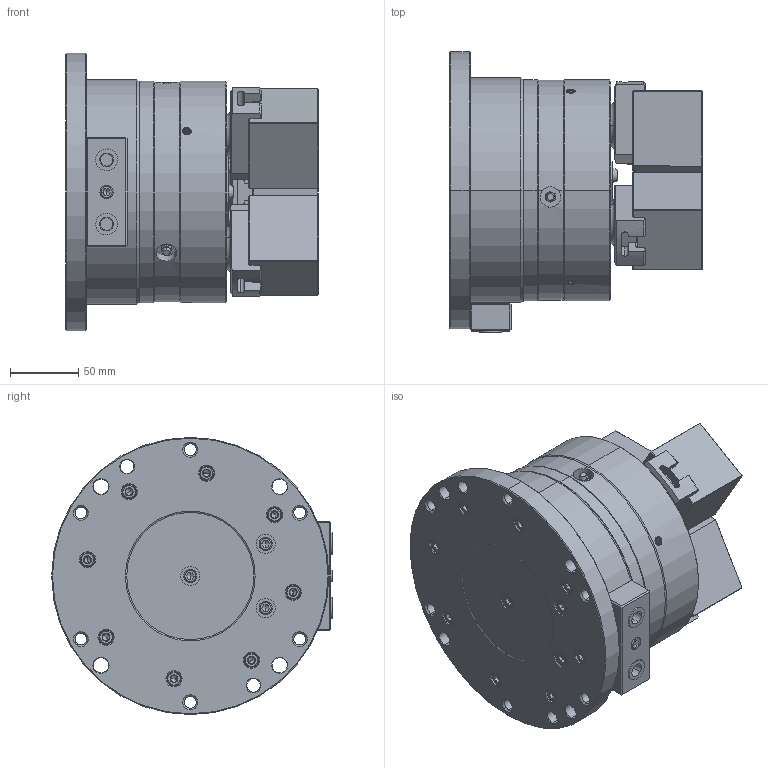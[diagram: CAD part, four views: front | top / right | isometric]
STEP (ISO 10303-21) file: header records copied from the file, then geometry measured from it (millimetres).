
FILE_DESCRIPTION (( 'STEP AP214' ), '1' );
FILE_NAME ('PWS06_CL.STEP', '2020-06-25T05:44:37', ( '' ), ( '' ), 'SwSTEP 2.0', 'SolidWorks 2017', '' );
FILE_SCHEMA (( 'AUTOMOTIVE_DESIGN' ));
Length unit declared in the file: millimetre
Products named in the file (5): 結合_OD; 0030110016; 61P422013; 61P324975; PWS06_CL
Assembly tree (13 placements, depth 2):
  PWS06_CL
    61P324975  x3
    61P422013  x3
    0030110016  x6
    結合_OD
Bounding box: 185.07 x 205.5 x 203 mm (x, y, z)
Volume: 3137889.1 mm3; surface area: 276807.7 mm2
Topology: 15 solids, 28 shells, 2277 faces, 5453 edges, 3361 vertices
Faces by surface type: plane 1083, cone 480, cylinder 371, bspline 263, torus 80
Entity records: 69082 total; most frequent: CARTESIAN_POINT 24475, ORIENTED_EDGE 9464, DIRECTION 8437, EDGE_CURVE 4732, VERTEX_POINT 2965, AXIS2_PLACEMENT_3D 2958, VECTOR 2521, LINE 2521
